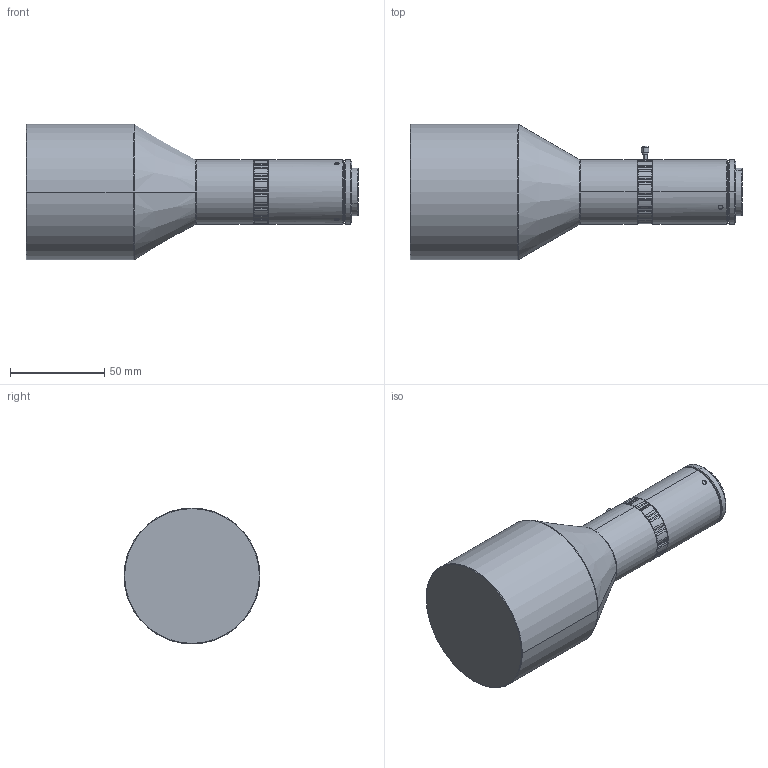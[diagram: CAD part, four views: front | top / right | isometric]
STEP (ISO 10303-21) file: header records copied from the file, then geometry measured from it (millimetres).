
FILE_DESCRIPTION (( 'STEP AP203' ), '1' );
FILE_NAME ('WWK0345-220-111V5-G.STEP', '2025-12-04T06:34:26', ( '' ), ( '' ), 'SwSTEP 2.0', 'SolidWorks 2017', '' );
FILE_SCHEMA (( 'CONFIG_CONTROL_DESIGN' ));
Length unit declared in the file: millimetre
Products named in the file (1): WWK0345-220-111V5-G
Bounding box: 175.77 x 72 x 72 mm (x, y, z)
Volume: 383925.1 mm3; surface area: 34394.3 mm2
Topology: 1 solids, 2 shells, 178 faces, 474 edges, 310 vertices
Faces by surface type: cylinder 102, cone 42, plane 28, torus 4, sphere 2
Entity records: 6128 total; most frequent: CARTESIAN_POINT 1659, ORIENTED_EDGE 948, DIRECTION 917, EDGE_CURVE 474, AXIS2_PLACEMENT_3D 390, VERTEX_POINT 310, CIRCLE 211, EDGE_LOOP 190
